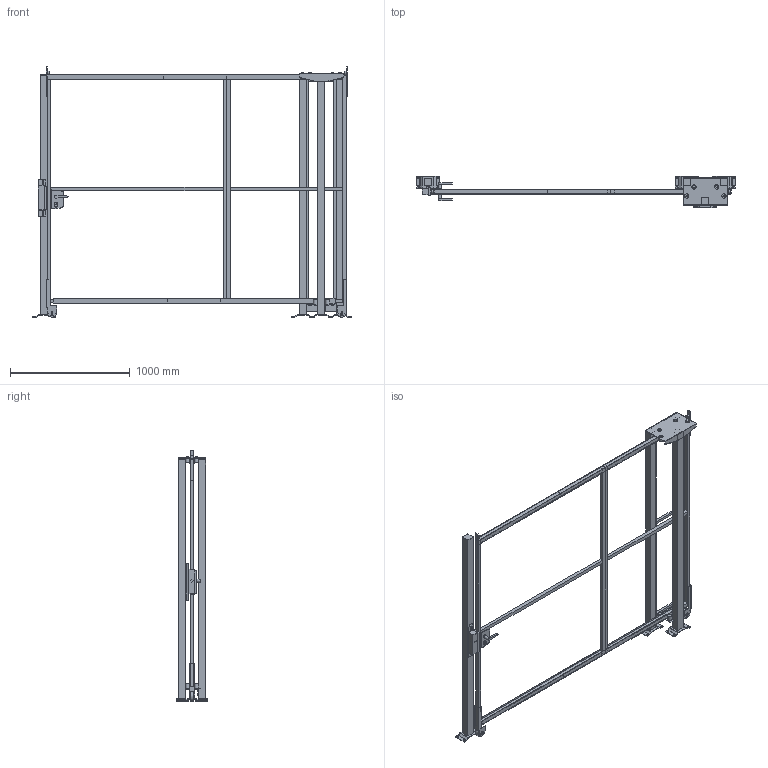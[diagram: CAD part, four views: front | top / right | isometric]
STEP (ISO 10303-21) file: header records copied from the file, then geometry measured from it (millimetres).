
FILE_DESCRIPTION(/* description */ (''),/* implementation_level */ '2;1');
FILE_NAME(/* name */ 'C:\SafeGuarding\ELABORATI\KLADKOUGAMMA_2025-03-20-13-45-52.stp',/* time_stamp */ '2025-03-20T13:45:56+01:00',/* author */ ('admin'),/* organization */ (''),/* preprocessor_version */ 'ST-DEVELOPER v18.1',/* originating_system */ 'AutoCAD Mechanical',/* authorisation */ '');
FILE_SCHEMA (('AUTOMOTIVE_DESIGN { 1 0 10303 214 3 1 1 }'));
Length unit declared in the file: millimetre
Products named in the file (5): Product; R_VFPA.REPE30.10001900; R_VFPA.REPE30.15001900; R_VFPA.REPE20.02501900; P_VFMA.V260SDU.2020
Assembly tree (7 placements, depth 2):
  Product
    R_VFPA.REPE30.10001900
    R_VFPA.REPE30.15001900
    P_VFMA.V260SDU.2020  x4
    R_VFPA.REPE20.02501900
Bounding box: 2662 x 264 x 2090.02 mm (x, y, z)
Volume: 48691157.4 mm3; surface area: 6572688.9 mm2
Topology: 68 solids, 68 shells, 608 faces, 1752 edges, 1729 vertices
Faces by surface type: plane 530, cylinder 74, bspline 4
Full cylindrical faces by diameter (mm): 9 x4, 11 x16, 13 x4, 18 x1, 25 x2, 25.398 x2, 30 x6, 36 x8, 80 x2
Entity records: 18201 total; most frequent: CARTESIAN_POINT 4729, DIRECTION 2684, ORIENTED_EDGE 2374, LINE 1232, VECTOR 1232, EDGE_CURVE 1187, VERTEX_POINT 798, AXIS2_PLACEMENT_3D 726
